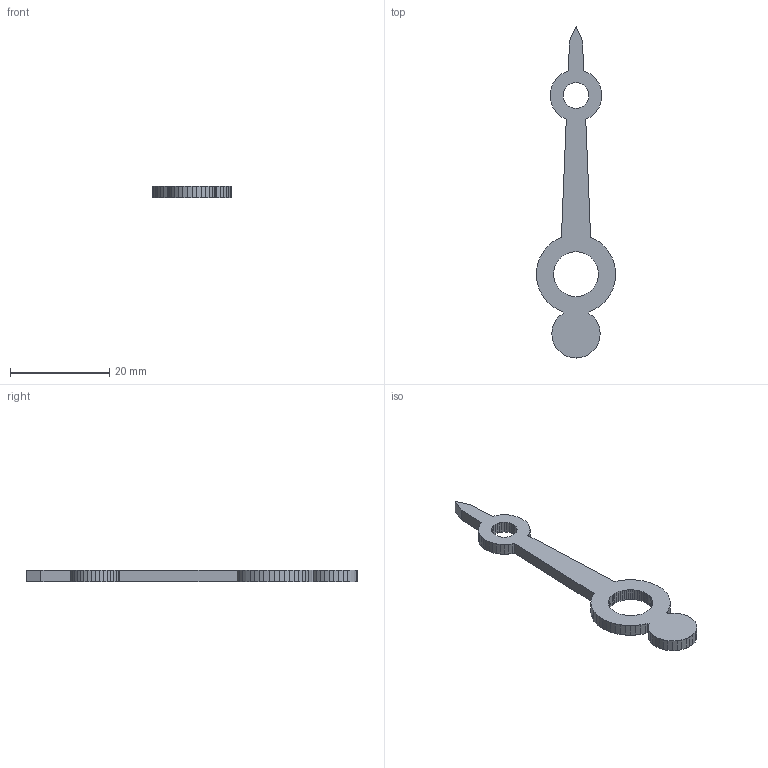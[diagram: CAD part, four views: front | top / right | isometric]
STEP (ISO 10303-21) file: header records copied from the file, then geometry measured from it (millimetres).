
FILE_DESCRIPTION(('Open CASCADE Model'),'2;1');
FILE_NAME('Open CASCADE Shape Model','2026-10-05T13:03:08',('Author'),( 'Open CASCADE'),'Open CASCADE STEP processor 7.9','Open CASCADE 7.9' ,'Unknown');
FILE_SCHEMA(('AUTOMOTIVE_DESIGN { 1 0 10303 214 1 1 1 1 }'));
Length unit declared in the file: millimetre
Products named in the file (1): Open CASCADE STEP translator 7.9 24
Bounding box: 16 x 66.88 x 2.4 mm (x, y, z)
Volume: 974.5 mm3; surface area: 1294.2 mm2
Topology: 1 solids, 1 shells, 202 faces, 600 edges, 400 vertices
Faces by surface type: plane 202
Entity records: 14442 total; most frequent: CARTESIAN_POINT 2403, DIRECTION 2206, LINE 1800, VECTOR 1800, ORIENTED_EDGE 1200, PCURVE 1200, DEFINITIONAL_REPRESENTATION 1200, EDGE_CURVE 600
